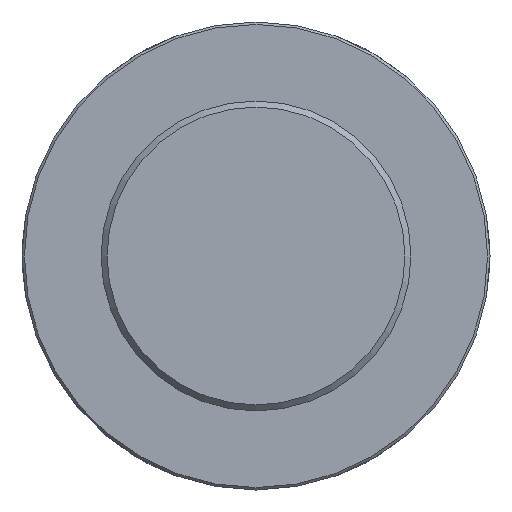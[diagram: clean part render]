
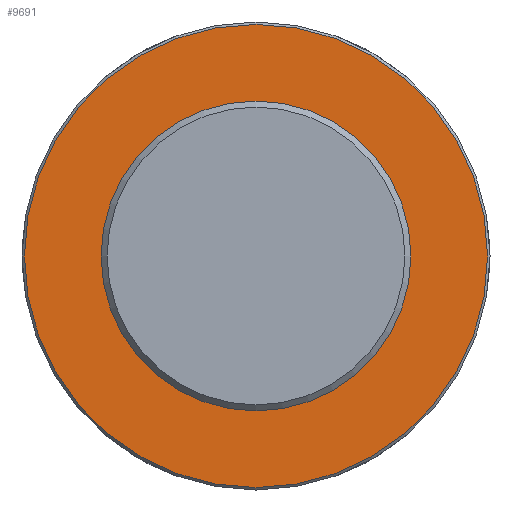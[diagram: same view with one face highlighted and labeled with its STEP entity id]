
A CAD part, front view. The second image highlights one B-rep face of the part: STEP entity #9691.
In plain terms, the highlighted planar face has unit normal (0, -1, 0) as drawn and (0, 1, 0) by its records, which use the part's own axes.
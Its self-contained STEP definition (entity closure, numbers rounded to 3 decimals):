
#73=CIRCLE('',#10039,190.5);
#388=PLANE('',#10042);
#907=FACE_OUTER_BOUND('',#1500,.T.);
#1500=EDGE_LOOP('',(#8874));
#4668=VERTEX_POINT('',#17831);
#6074=EDGE_CURVE('',#4668,#4668,#73,.T.);
#8874=ORIENTED_EDGE('',*,*,#6074,.F.);
#9691=ADVANCED_FACE('',(#907),#388,.T.);
#10039=AXIS2_PLACEMENT_3D('',#17832,#11431,#11432);
#10042=AXIS2_PLACEMENT_3D('',#18070,#11437,#11438);
#11431=DIRECTION('center_axis',(0.,-1.,0.));
#11432=DIRECTION('ref_axis',(1.,0.,0.));
#11437=DIRECTION('center_axis',(0.,1.,0.));
#11438=DIRECTION('ref_axis',(0.,0.,1.));
#17831=CARTESIAN_POINT('',(-190.5,175.,0.));
#17832=CARTESIAN_POINT('Origin',(0.,175.,0.));
#18070=CARTESIAN_POINT('Origin',(0.,175.,0.));
